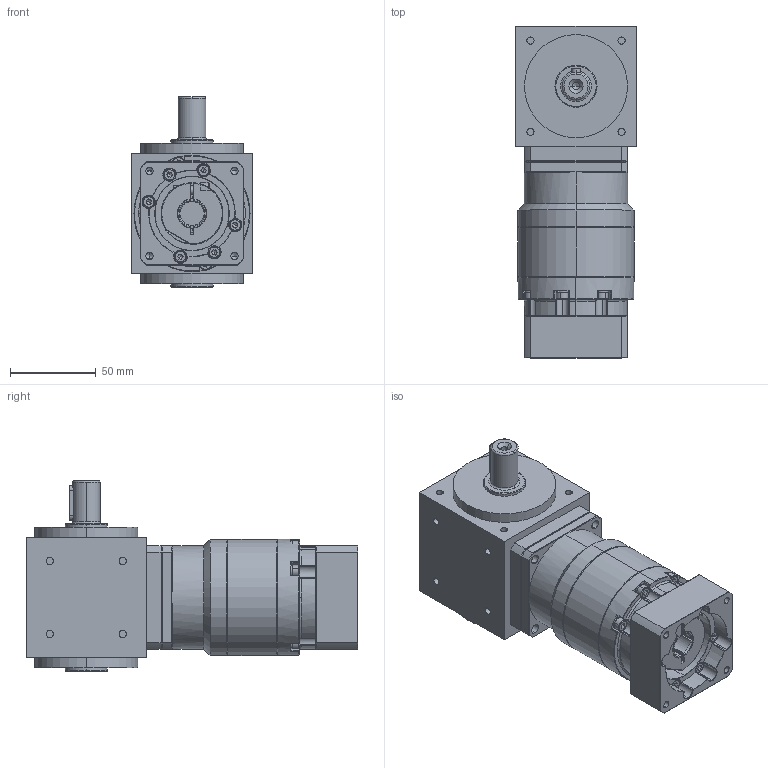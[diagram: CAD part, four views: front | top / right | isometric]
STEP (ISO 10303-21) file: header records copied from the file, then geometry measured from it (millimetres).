
FILE_DESCRIPTION (( 'STEP AP203' ), '1' );
FILE_NAME ('AAW070AS-L2-P 14-50-70-M5.STEP', '2024-12-23T08:33:19', ( '' ), ( '' ), 'SwSTEP 2.0', 'SolidWorks 2021', '' );
FILE_SCHEMA (( 'CONFIG_CONTROL_DESIGN' ));
Length unit declared in the file: millimetre
Products named in the file (3): AAW070AS-L1-P 14-50-70-M5; VRB-060-L2-S2-P1 14-50-70-M5; AAW070AS-L2-P 14-50-70-M5
Assembly tree (2 placements, depth 2):
  AAW070AS-L2-P 14-50-70-M5
    AAW070AS-L1-P 14-50-70-M5
    VRB-060-L2-S2-P1 14-50-70-M5
Bounding box: 70 x 193 x 111 mm (x, y, z)
Volume: 677311.3 mm3; surface area: 113311.5 mm2
Topology: 33 solids, 33 shells, 1061 faces, 2570 edges, 1598 vertices
Faces by surface type: plane 416, cylinder 375, cone 200, torus 58, bspline 12
Entity records: 32363 total; most frequent: CARTESIAN_POINT 7012, DIRECTION 5567, ORIENTED_EDGE 5040, EDGE_CURVE 2520, AXIS2_PLACEMENT_3D 2228, VERTEX_POINT 1598, EDGE_LOOP 1178, CIRCLE 1174
